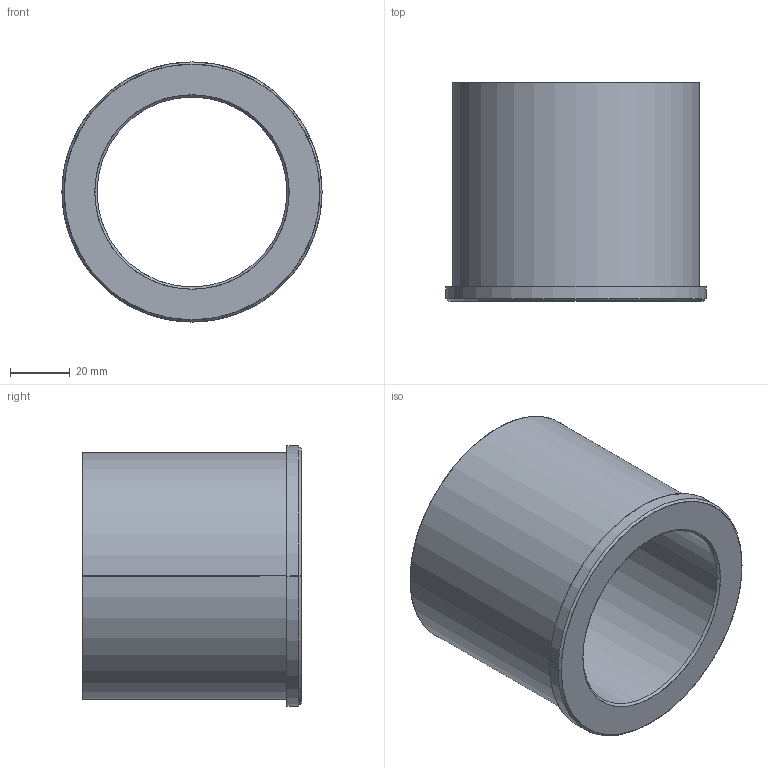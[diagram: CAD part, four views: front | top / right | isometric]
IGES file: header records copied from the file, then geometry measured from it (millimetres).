
Start section: SolidWorks IGES file using analytic representation for surfaces
Global section: file name: C:\Users\Ryan\Documents\PCS\Shoulder Bushings - Bronze Plated\LBB 20-27.igs; native system: SolidWorks 2009; preprocessor: SolidWorks 2009; author: Ryan; date: 140913.212024; units: inch
Bounding box: 87.05 x 73.03 x 87.05 mm (x, y, z)
Surface area: 38803.8 mm2 (no closed solid volume)
Topology: 0 solids, 0 shells, 15 faces, 432 edges, 432 vertices
Faces by surface type: revolution 10, bspline 5
